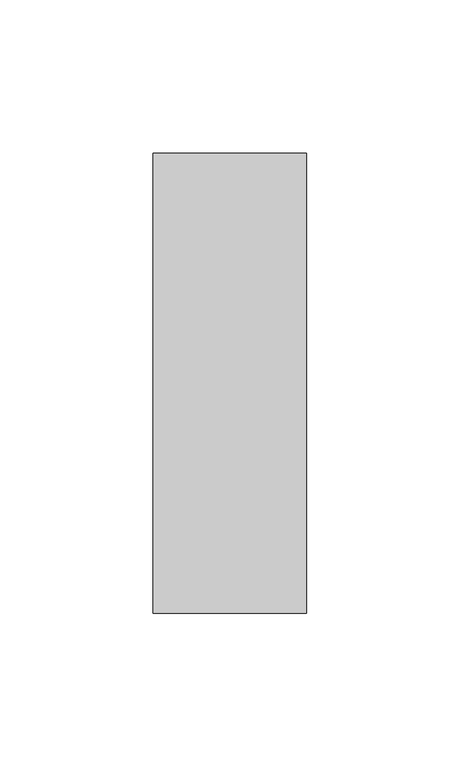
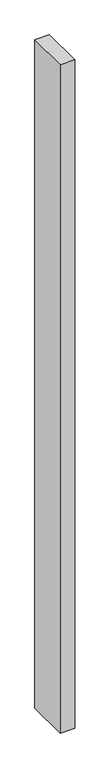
"""IFC4 building model written with IfcOpenShell, lengths in millimetres: member geometry, Прямоугольный импост : 50х150мм."""

from ifc_helpers import new_model, si_unit, frame, origin, place, context, project, spatial, polyline, outline, extrude, source, transform, mapped, element, save


def member_6e50c603(model_context):
    return source(origin(), model_context, "Body", "SweptSolid", [
        extrude(outline(polyline([(0.0, 75.0), (0.0, -75.0), (-50.0, -75.0), (-50.0, 75.0), (0.0, 75.0)])), frame((0.0, 0.0, -2428.4429218), z_axis=(0.0, 0.0, 1.0), x_axis=(1.0, 0.0, 0.0)), (0.0, 0.0, 1.0), 2428.4429218),
    ])


if __name__ == "__main__":
    model = new_model("IFC4")
    model_context = context("Model", 3, world=origin())
    ifc_project = project(units=[si_unit("LENGTHUNIT", "METRE", prefix="MILLI")], contexts=[model_context])
    site = spatial("IfcSite", under=ifc_project)
    building = spatial("IfcBuilding", under=site)
    placement = place(None, origin())
    member_shape = member_6e50c603(model_context)
    element("IfcMember", 1, ObjectType="Прямоугольный импост : 50х150мм", at=placement, inside=building, context=model_context, shape_type="MappedRepresentation", body=[
        mapped(member_shape, transform((0.0, 0.0, 0.0), x_axis=(1.0, 0.0, 0.0), y_axis=(0.0, 1.0, 0.0), z_axis=(0.0, 0.0, 1.0))),
    ])
    save(model, "model.ifc")
